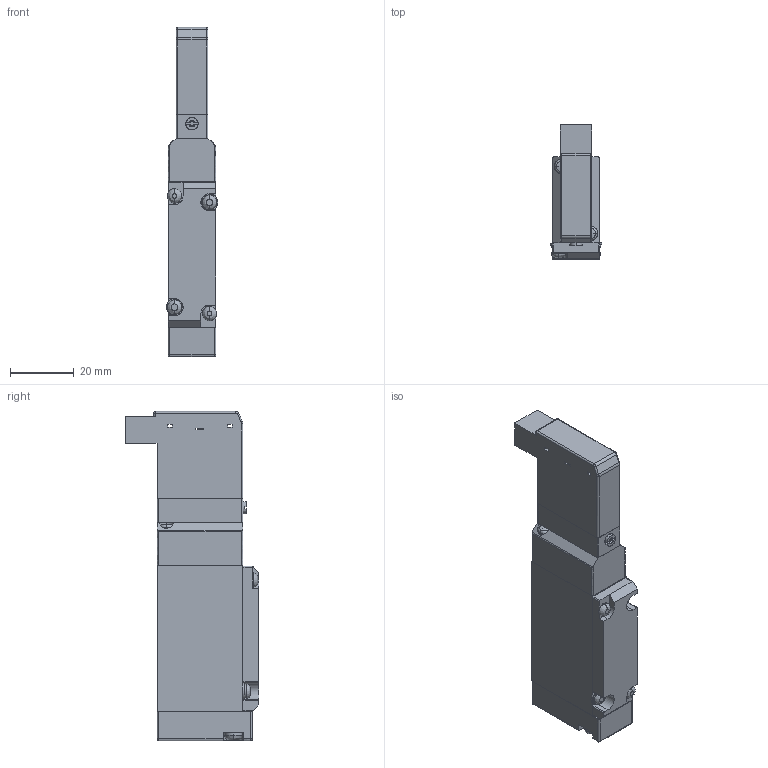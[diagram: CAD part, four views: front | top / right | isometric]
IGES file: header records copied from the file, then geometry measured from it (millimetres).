
Start section: ------------------------------------------------------------------------
Global section: file name: D:\ICADMX\tmp\trans3d_spg\CVICAD02.7120.F15T0-A1_16639.igs; native system: spGate; preprocessor: ver12.6.6; author: Unknown; organization: Unknown; date: 210712.184802; units: millimetre
Bounding box: 16.2 x 42 x 103.5 mm (x, y, z)
Volume: 40613.7 mm3; surface area: 15364.5 mm2
Topology: 6 solids, 6 shells, 239 faces, 600 edges, 377 vertices
Faces by surface type: bspline 239
